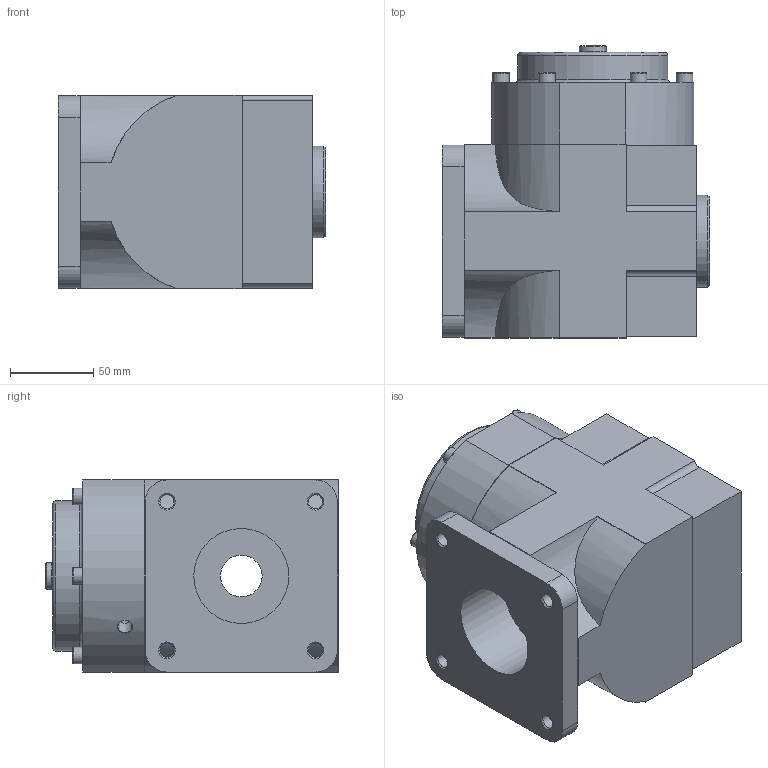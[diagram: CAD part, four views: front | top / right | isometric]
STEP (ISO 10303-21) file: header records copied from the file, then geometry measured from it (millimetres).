
FILE_DESCRIPTION( ( 'STEP AP214' ), ' ' );
FILE_NAME( 'p:/temp/worker_57/3964_3292/app_76_02016022515325842941442192d056f_000000_00_00_000000/format_1/L1-N10025.stp', '2016-02-25T14:33:01', ( '' ), ( '' ), ' ', 'PARTsolutions', ' ' );
FILE_SCHEMA( ( 'AUTOMOTIVE_DESIGN { 1 0 10303 214 1 1 1 1 }' ) );
Length unit declared in the file: millimetre
Products named in the file (1): _L1-N10025
Bounding box: 160 x 175 x 116 mm (x, y, z)
Volume: 2247979.2 mm3; surface area: 140881.5 mm2
Topology: 1 solids, 1 shells, 164 faces, 401 edges, 257 vertices
Faces by surface type: plane 96, cylinder 39, cone 21, torus 8
Full cylindrical faces by diameter (mm): 1.5 x1, 8.376 x8, 8.566 x1, 10 x6, 16 x1, 25 x1, 55 x1, 56.9 x1, 90 x1
Entity records: 5966 total; most frequent: CARTESIAN_POINT 941, DIRECTION 772, ORIENTED_EDGE 676, EDGE_CURVE 338, AXIS2_PLACEMENT_3D 274, VERTEX_POINT 249, EDGE_LOOP 242, LINE 224
